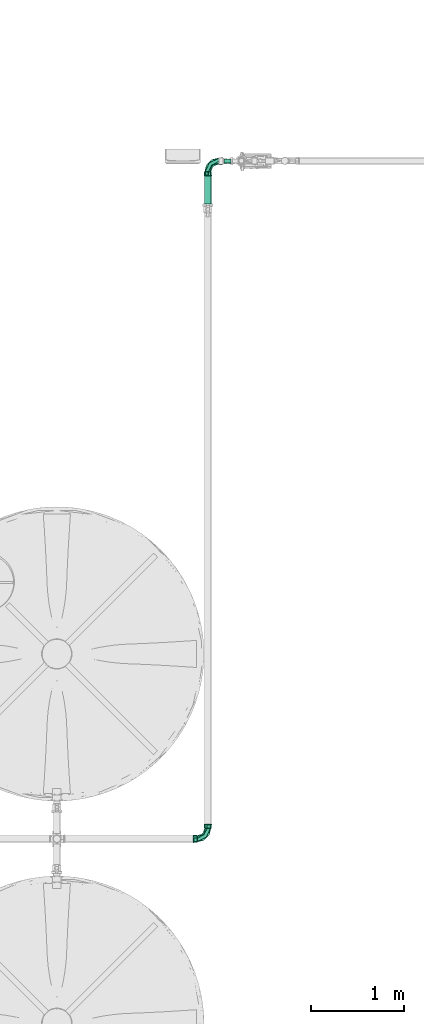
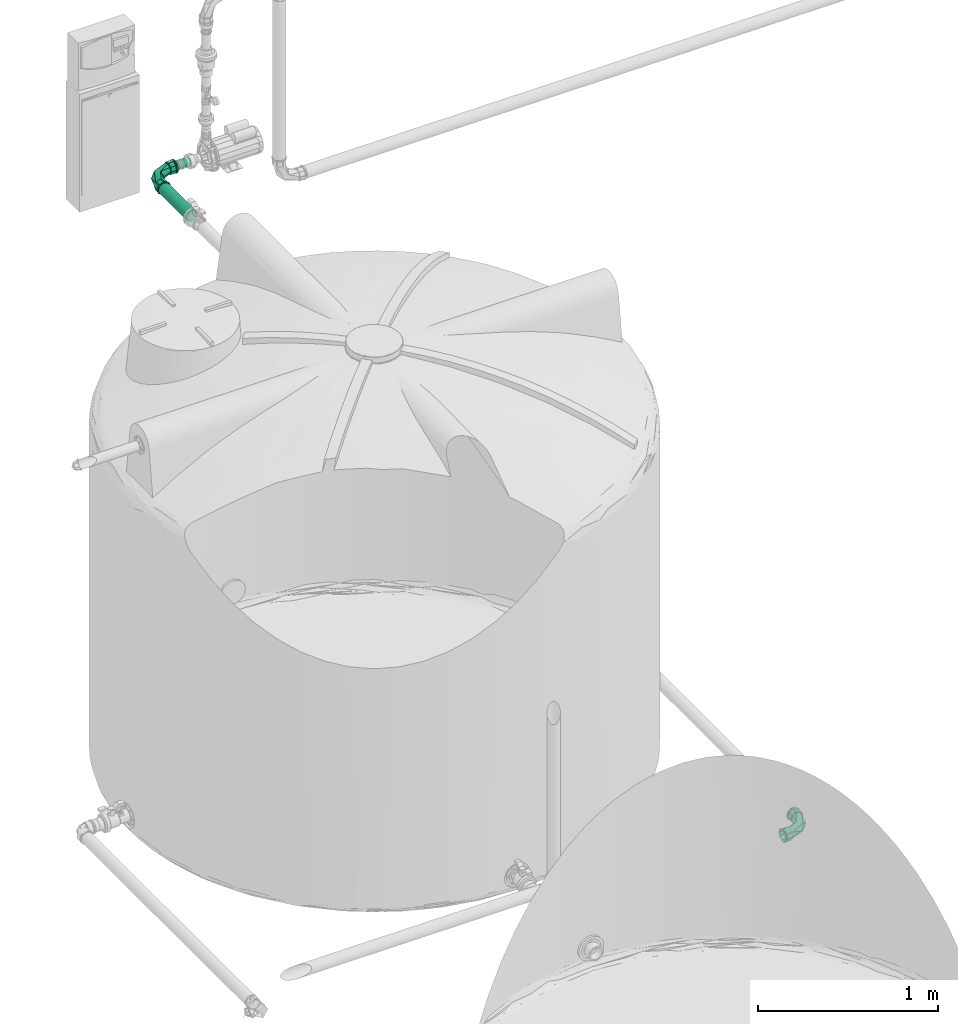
# One storey, part 66 of 166: 2 flow fittings, 2 flow segments.
"""IFC2X3 building model written with IfcOpenShell, lengths in metres."""

import ifcopenshell
import ifcopenshell.guid

model = None  # the IFC model being written
_history = None  # IfcOwnerHistory: only IFC2X3 demands one
_inside = {}  # id of a spatial element -> (the spatial element, [elements in it])
_under = {}  # id of a project, library or spatial element -> (it, [spatial elements below it])
_declared = {}  # id of a project -> (the project, [libraries it declares])
_typed = {}  # id of a type object -> (the type object, [elements of that type])
_made_of = {}  # id of a material, layer set ... -> (it, [elements and type objects made of it])


def new_model(schema):
    """Start an empty IFC model of exactly this schema.

    Asked for "IFC4X3", IfcOpenShell would pick the latest addendum, in which some entities
    have other attributes; the version numbers below select the first issue.
    IFC2X3 requires an IfcOwnerHistory on every rooted entity: one is made here for all.
    """
    global model, _history
    if schema == "IFC4X3":
        model = ifcopenshell.file(schema_version=(4, 3, 0, 0))
    else:
        model = ifcopenshell.file(schema=schema)
    _inside.clear()
    _under.clear()
    _declared.clear()
    _typed.clear()
    _made_of.clear()
    _history = None
    if model.schema == "IFC2X3":
        org = make("IfcOrganization", Name="unknown")
        user = make(
            "IfcPersonAndOrganization",
            ThePerson=make("IfcPerson", FamilyName="unknown"),
            TheOrganization=org,
        )
        app = make(
            "IfcApplication",
            ApplicationDeveloper=org,
            Version="unknown",
            ApplicationFullName="unknown",
            ApplicationIdentifier="unknown",
        )
        _history = make(
            "IfcOwnerHistory",
            OwningUser=user,
            OwningApplication=app,
            ChangeAction="ADDED",
            CreationDate=0,
        )
    return model


def make(cls, **values):
    """One entity of the class cls with the attributes given. An attribute that is None is left unset."""
    return model.create_entity(
        cls, **{name: value for name, value in values.items() if value is not None}
    )


def entity(cls, *values):
    """Any entity or typed value of the class cls, its attributes in the order of the schema. None: left unset."""
    e = model.create_entity(cls)
    for i, value in enumerate(values):
        if value is not None:
            e[i] = value
    return e


def rooted(cls, **values):
    """An entity with a GlobalId (a new one), such as an element, a storey or a relation."""
    return make(cls, GlobalId=ifcopenshell.guid.new(), OwnerHistory=_history, **values)


def si_unit(unit_type, name, prefix=None):
    """IfcSIUnit, for example si_unit("LENGTHUNIT", "METRE", prefix="MILLI")."""
    return make("IfcSIUnit", UnitType=unit_type, Prefix=prefix, Name=name)


def converted_unit(unit_type, name, factor, base, dimensions=None, offset=None):
    """IfcConversionBasedUnit, such as the inch: factor (a typed value) times the base unit."""
    return make(
        "IfcConversionBasedUnit"
        if offset is None
        else "IfcConversionBasedUnitWithOffset",
        ConversionOffset=offset,
        Dimensions=None
        if dimensions is None
        else entity("IfcDimensionalExponents", *dimensions),
        UnitType=unit_type,
        Name=name,
        ConversionFactor=make(
            "IfcMeasureWithUnit", ValueComponent=factor, UnitComponent=base
        ),
    )


def assignment(units):
    """IfcUnitAssignment: the units of a project."""
    return None if units is None else make("IfcUnitAssignment", Units=units)


def point(xyz):
    """IfcCartesianPoint."""
    return None if xyz is None else make("IfcCartesianPoint", Coordinates=xyz)


def direction(xyz):
    """IfcDirection."""
    return None if xyz is None else make("IfcDirection", DirectionRatios=xyz)


def frame(location, z_axis=None, x_axis=None):
    """IfcAxis2Placement3D, a coordinate frame: its origin and axes. An axis left out is left unset."""
    return make(
        "IfcAxis2Placement3D",
        Location=point(location),
        Axis=direction(z_axis),
        RefDirection=direction(x_axis),
    )


def frame_2d(location, x_axis=None):
    """IfcAxis2Placement2D, a coordinate frame in the plane: its origin and x axis."""
    return make(
        "IfcAxis2Placement2D", Location=point(location), RefDirection=direction(x_axis)
    )


def origin():
    """The frame at (0, 0, 0) with its axes left unset."""
    return frame((0.0, 0.0, 0.0))


def origin_2d_with_axis():
    """The frame at (0, 0) in the plane with the x axis (1, 0) written out."""
    return frame_2d((0.0, 0.0), x_axis=(1.0, 0.0))


def place(relative_to, where):
    """IfcLocalPlacement: puts the frame where relative to a parent placement (None: the world)."""
    return make(
        "IfcLocalPlacement", PlacementRelTo=relative_to, RelativePlacement=where
    )


def context(
    kind, dimensions, precision=None, world=None, true_north=None, identifier=None
):
    """IfcGeometricRepresentationContext, for example the 3D "Model" context."""
    return make(
        "IfcGeometricRepresentationContext",
        ContextIdentifier=identifier,
        ContextType=kind,
        CoordinateSpaceDimension=dimensions,
        Precision=precision,
        WorldCoordinateSystem=world,
        TrueNorth=true_north,
    )


def subcontext(parent, identifier, kind, view, scale=None):
    """IfcGeometricRepresentationSubContext, for example "Body" below "Model"."""
    return make(
        "IfcGeometricRepresentationSubContext",
        ContextIdentifier=identifier,
        ContextType=kind,
        ParentContext=parent,
        TargetScale=scale,
        TargetView=view,
    )


def project(units=None, contexts=None):
    """IfcProject with its units and contexts."""
    return rooted(
        "IfcProject",
        Name="project",
        RepresentationContexts=contexts,
        UnitsInContext=assignment(units),
    )


def spatial(cls, under=None, at=None, **own):
    """A site, building, storey or space (cls), placed at a placement, below another one or the project."""
    s = rooted(cls, ObjectPlacement=at, **own)
    if under is not None:
        _under.setdefault(under.id(), (under, []))[1].append(s)
    return s


def profile(cls, at=None, kind="AREA", **sizes):
    """A parametric profile (cls). Its sizes go by their IFC names, for example OverallWidth=200.0."""
    return make(cls, ProfileType=kind, Position=at, **sizes)


def circle(**sizes):
    """IfcCircleProfileDef."""
    return profile("IfcCircleProfileDef", **sizes)


def extrude(swept, where, along, depth):
    """IfcExtrudedAreaSolid: the profile swept, set in the frame where, extruded along a direction by depth."""
    return make(
        "IfcExtrudedAreaSolid",
        SweptArea=swept,
        Position=where,
        ExtrudedDirection=direction(along),
        Depth=depth,
    )


def faces_of(points, faces, orient=None, outer=None):
    """IfcFace entities. A face is a list of loops; a loop is a list of indices into points, from 0.

    orient and outer hold one flag for each loop. By default every Orientation is true, the
    first loop of a face is its IfcFaceOuterBound and the others are IfcFaceBound.
    """
    made = []
    for i, loops in enumerate(faces):
        bounds = []
        for j, loop in enumerate(loops):
            is_outer = j == 0 if outer is None else outer[i][j]
            bounds.append(
                make(
                    "IfcFaceOuterBound" if is_outer else "IfcFaceBound",
                    Bound=make("IfcPolyLoop", Polygon=[points[k] for k in loop]),
                    Orientation=True if orient is None else orient[i][j],
                )
            )
        made.append(make("IfcFace", Bounds=bounds))
    return made


def faceted_brep(points, faces, orient=None, outer=None, voids=None):
    """IfcFacetedBrep: a solid bounded by flat faces; with voids (closed shells), ...WithVoids."""
    shared = [point(p) for p in points]
    hull = make("IfcClosedShell", CfsFaces=faces_of(shared, faces, orient, outer))
    if voids is None:
        return make("IfcFacetedBrep", Outer=hull)
    return make(
        "IfcFacetedBrepWithVoids",
        Outer=hull,
        Voids=[
            make(cls, CfsFaces=faces_of(shared, fs, o, b)) for cls, fs, o, b in voids
        ],
    )


def shape(context_of_items, identifier, shape_type, items):
    """IfcShapeRepresentation: the items that make up one representation, for example the "Body"."""
    return make(
        "IfcShapeRepresentation",
        ContextOfItems=context_of_items,
        RepresentationIdentifier=identifier,
        RepresentationType=shape_type,
        Items=items,
    )


def source(mapping_origin, context_of_items, identifier, shape_type, items):
    """IfcRepresentationMap: a shape defined once, which mapped items show again and again."""
    return make(
        "IfcRepresentationMap",
        MappingOrigin=mapping_origin,
        MappedRepresentation=shape(context_of_items, identifier, shape_type, items),
    )


def transform(
    local_origin,
    x_axis=None,
    y_axis=None,
    z_axis=None,
    scale=None,
    scale2=None,
    scale3=None,
    uniform=True,
):
    """IfcCartesianTransformationOperator3D, or its non-uniform kind. x_axis, y_axis, z_axis: its Axis1, 2, 3."""
    if uniform:
        return make(
            "IfcCartesianTransformationOperator3D",
            Axis1=direction(x_axis),
            Axis2=direction(y_axis),
            LocalOrigin=point(local_origin),
            Scale=scale,
            Axis3=direction(z_axis),
        )
    return make(
        "IfcCartesianTransformationOperator3DnonUniform",
        Axis1=direction(x_axis),
        Axis2=direction(y_axis),
        LocalOrigin=point(local_origin),
        Scale=scale,
        Axis3=direction(z_axis),
        Scale2=scale2,
        Scale3=scale3,
    )


def mapped(mapping_source, mapping_target):
    """IfcMappedItem: shows the shape of a source again, moved by a transform."""
    return make(
        "IfcMappedItem", MappingSource=mapping_source, MappingTarget=mapping_target
    )


def material(Name=None, Category=None):
    """IfcMaterial."""
    return make("IfcMaterial", Name=Name, Category=Category)


def made_of(thing, what):
    """Note that an element or type object is made of a material, layer set ...; save() writes the relation."""
    if what is not None:
        _made_of.setdefault(what.id(), (what, []))[1].append(thing)
    return thing


def type_object(cls, material=None, **own):
    """A type object (cls), such as IfcWallType, which elements share."""
    return made_of(rooted(cls, **own), material)


def type_shapes(of_type, sources):
    """Give a type object the sources (RepresentationMaps) that its elements show as mapped items."""
    of_type.RepresentationMaps = sources


def element(
    cls,
    number,
    at=None,
    inside=None,
    cuts=None,
    type_object=None,
    material=None,
    context=None,
    identifier="Body",
    shape_type=None,
    held_by="IfcProductDefinitionShape",
    body=None,
    shapes=None,
    **own,
):
    """One element of the class cls, such as IfcWall. Its Tag is "e" and its number.

    at: its placement. inside: the storey or other place that contains it. cuts: it is an
    opening in that element (IfcRelVoidsElement). A single representation is given by context,
    identifier, shape_type and body (its items); several are given by shapes. held_by: the class
    of the entity that holds the representations. save() writes the other relations.
    """
    e = rooted(cls, Tag="e%d" % number, ObjectPlacement=at, **own)
    if body is not None:
        shapes = [shape(context, identifier, shape_type, body)]
    if shapes is not None:
        e.Representation = make(held_by, Representations=shapes)
    if inside is not None:
        _inside.setdefault(inside.id(), (inside, []))[1].append(e)
    if cuts is not None:
        rooted(
            "IfcRelVoidsElement", RelatingBuildingElement=cuts, RelatedOpeningElement=e
        )
    if type_object is not None:
        _typed.setdefault(type_object.id(), (type_object, []))[1].append(e)
    return made_of(e, material)


def aggregate(whole, parts):
    """IfcRelAggregates: a whole, such as a stair, and the parts it consists of."""
    return rooted("IfcRelAggregates", RelatingObject=whole, RelatedObjects=parts)


def save(model, path):
    """Write the relations noted so far, then the file.

    IfcRelAggregates (storeys below a building ...), IfcRelContainedInSpatialStructure (elements
    in a storey), IfcRelDefinesByType, IfcRelAssociatesMaterial and IfcRelDeclares: one each for
    every whole, place, type object, material and project.
    """
    for whole, parts in _under.values():
        aggregate(whole, parts)
    for where, things in _inside.values():
        rooted(
            "IfcRelContainedInSpatialStructure",
            RelatedElements=things,
            RelatingStructure=where,
        )
    for kind, things in _typed.values():
        rooted("IfcRelDefinesByType", RelatedObjects=things, RelatingType=kind)
    for what, things in _made_of.values():
        rooted("IfcRelAssociatesMaterial", RelatedObjects=things, RelatingMaterial=what)
    for by, libraries in _declared.values():
        rooted("IfcRelDeclares", RelatingContext=by, RelatedDefinitions=libraries)
    model.write(path)


model = new_model("IFC2X3")

# Units and contexts
model_context = context("Model", 3, precision=1e-05, world=origin(), true_north=direction((6.123233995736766e-17, 1.0)))
body_context = subcontext(model_context, "Body", "Model", "MODEL_VIEW")
ifc_project = project(units=[si_unit("LENGTHUNIT", "METRE"), converted_unit("PLANEANGLEUNIT", "DEGREE", entity("IfcPlaneAngleMeasure", 0.017453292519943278), si_unit("PLANEANGLEUNIT", "RADIAN"), dimensions=[0, 0, 0, 0, 0, 0, 0]), si_unit("AREAUNIT", "SQUARE_METRE")], contexts=[model_context])

# Site, building, storey
site_placement = place(None, origin())
site = spatial("IfcSite", under=ifc_project, at=site_placement, Name="Default", CompositionType="ELEMENT")
building_placement = place(site_placement, origin())
building = spatial("IfcBuilding", under=site, at=building_placement, Name="CASA DE ACOLHIDA PARA IDOSOS", CompositionType="ELEMENT")
storey_placement = place(building_placement, frame((0.0, 0.0, -1.7499999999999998)))
storey = spatial("IfcBuildingStorey", under=building, at=storey_placement, Name="IMPLANTAÇÃO DRENAGEM", CompositionType="ELEMENT", Elevation=-1.7499999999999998)

# Flow segments
pipe_segment_type = type_object("IfcPipeSegmentType", Name="Tipos de tubos:AF_Tubo Marrom Soldável", PredefinedType="NOTDEFINED")
flow_segment_1_placement = place(storey_placement, origin())
element("IfcFlowSegment", 1, at=flow_segment_1_placement, inside=storey, type_object=pipe_segment_type, Name="Tipos de tubos:AF_Tubo Marrom Soldável", ObjectType="Tipos de tubos:AF_Tubo Marrom Soldável", context=body_context, shape_type="SweptSolid", body=[
    extrude(circle(Radius=0.037500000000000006, at=origin_2d_with_axis()), frame((-61.132905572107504, 6.58491222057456, 0.13340000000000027), z_axis=(0.0, 1.0, 0.0), x_axis=(1.0, 0.0, 0.0)), (0.0, 0.0, 1.0), 0.34874504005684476),
])
flow_segment_2_placement = place(storey_placement, origin())
element("IfcFlowSegment", 2, at=flow_segment_2_placement, inside=storey, type_object=pipe_segment_type, Name="Tipos de tubos:AF_Tubo Marrom Soldável", ObjectType="Tipos de tubos:AF_Tubo Marrom Soldável", context=body_context, shape_type="SweptSolid", body=[
    extrude(circle(Radius=0.025, at=frame_2d((0.0, -2.707167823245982e-16), x_axis=(1.0, 0.0))), frame((-60.957495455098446, 7.048917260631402, 0.1333999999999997), z_axis=(1.0, 0.0, 0.0), x_axis=(0.0, -1.0, 0.0)), (0.0, 0.0, 1.0), 0.07434518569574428),
])

# Flow fittings
ifc_material = material(Name="PVC Marrom")
pipe_fitting_type = type_object("IfcPipeFittingType", Name="AF_Soldavel_Curva 45_90:Standard", PredefinedType="NOTDEFINED", material=ifc_material)
shared_shape = source(origin(), body_context, "Body", "Brep", [
    faceted_brep([(-0.1595599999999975, -0.01112921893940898, -0.041534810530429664), (-0.1595599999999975, -0.009705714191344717, -0.036222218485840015), (-0.1595599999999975, 0.00970571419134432, -0.03622221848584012), (-0.1595599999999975, -0.03723909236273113, -0.02149999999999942), (-0.1595599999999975, 0.011129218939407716, -0.041534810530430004), (-0.1595599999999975, -0.03247595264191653, -0.01874999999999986), (-0.1595599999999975, -0.037500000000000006, 0.0), (-0.1595599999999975, -0.043000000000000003, 0.0), (-0.1595599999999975, -0.032475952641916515, 0.018749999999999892), (-0.1595599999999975, -0.03723909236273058, 0.021499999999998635), (-0.1595599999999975, -0.009705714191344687, 0.03622221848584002), (-0.1595599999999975, -0.011129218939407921, 0.04153481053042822), (-0.1595599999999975, 0.00970571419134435, 0.03622221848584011), (-0.1595599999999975, 0.011129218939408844, 0.041534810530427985), (-0.1595599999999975, 0.03247595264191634, 0.018750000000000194), (-0.1595599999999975, 0.03723909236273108, 0.021499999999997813), (-0.1595599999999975, 0.043000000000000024, 0.0), (-0.1595599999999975, 0.037500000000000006, 0.0), (-0.1595599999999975, 0.03723909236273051, -0.021500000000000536), (-0.1595599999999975, 0.03247595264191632, -0.01875000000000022), (-0.1512599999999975, 0.043000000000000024, 0.0), (-0.1512599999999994, 0.03293946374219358, 0.027640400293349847), (-0.15126000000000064, 0.007465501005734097, 0.04234697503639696), (-0.1512599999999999, -0.032941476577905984, 0.027638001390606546), (-0.1512599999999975, -0.043000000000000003, 0.0), (-0.1512599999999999, -0.012737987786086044, 0.03499248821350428), (-0.15125999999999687, -0.03294147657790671, -0.027638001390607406), (-0.15125999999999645, -0.007468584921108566, -0.04234643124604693), (-0.1512599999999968, 0.03293946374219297, -0.027640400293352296), (-0.15125999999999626, 0.012735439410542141, -0.03499341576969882), (-0.14726000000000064, 0.006943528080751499, 0.03939273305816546), (-0.14725999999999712, -0.04, 0.0), (-0.14725999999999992, -0.0306445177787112, 0.02570823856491), (-0.14726000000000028, -0.01185049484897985, 0.03255048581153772), (-0.14725999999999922, 0.03064099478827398, 0.025712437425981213), (-0.14725999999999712, 0.04000000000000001, 0.0), (-0.14725999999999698, 0.030640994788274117, -0.025712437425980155), (-0.14725999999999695, 0.011846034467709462, -0.03255210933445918), (-0.14725999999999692, -0.030644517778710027, -0.02570823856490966), (-0.1472599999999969, -0.006948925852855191, -0.039391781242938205), (-0.11525999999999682, 0.04000000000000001, 0.0), (-0.1152599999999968, 0.03064034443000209, 0.025713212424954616), (-0.11525999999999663, 0.006941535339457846, 0.039393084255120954), (-0.1152599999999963, -0.030646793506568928, 0.025705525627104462), (-0.11525999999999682, -0.039999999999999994, 0.0), (-0.11525999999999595, -0.03064679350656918, -0.025705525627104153), (-0.11525999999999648, -0.006951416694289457, -0.03939134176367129), (-0.11525999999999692, 0.030640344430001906, -0.02571321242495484), (-0.11275999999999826, 0.02681594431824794, -0.022492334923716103), (-0.11275999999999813, -0.00607384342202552, -0.034468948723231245), (-0.1127599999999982, 0.03500000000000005, 0.0), (-0.1127599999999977, -0.026810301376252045, -0.02249906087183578), (-0.11275999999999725, -0.03500000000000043, 0.0), (-0.11276000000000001, -0.026810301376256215, 0.022499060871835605), (-0.11275999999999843, 0.0060824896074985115, 0.034467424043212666), (-0.11275999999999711, 0.026815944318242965, 0.022492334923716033), (-0.038879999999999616, -0.015203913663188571, 0.0), (-0.017106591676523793, 0.017106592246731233, 0.026797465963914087), (-0.006082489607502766, 0.11275999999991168, 0.0344674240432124), (-0.042993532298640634, 0.04299353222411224, 0.03203626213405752), (-0.05777537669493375, 0.05777537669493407, 0.0), (-0.0268159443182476, 0.1127599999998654, 0.02249233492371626), (0.015203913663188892, 0.03887999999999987, 0.0), (0.035000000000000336, 0.11275999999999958, 0.0), (0.026810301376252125, 0.11275999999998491, 0.022499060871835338), (-0.034999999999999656, 0.1127599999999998, 0.0), (-0.037770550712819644, 0.03777054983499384, -0.03435099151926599), (-0.05270496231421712, 0.052704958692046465, -0.021225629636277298), (-0.0268159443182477, 0.11275999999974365, -0.022492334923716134), (-0.01710659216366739, 0.01710659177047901, -0.02679746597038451), (0.0060738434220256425, 0.11275999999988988, -0.03446894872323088), (0.02681030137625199, 0.11275999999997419, -0.022499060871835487), (0.03064034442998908, 0.115259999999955, -0.025713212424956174), (0.03999999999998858, 0.11525999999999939, 0.0), (0.006941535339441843, 0.11525999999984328, -0.03939308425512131), (-0.04000000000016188, 0.11525999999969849, 0.0), (-0.030646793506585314, 0.11525999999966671, -0.02570552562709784), (-0.03064679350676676, 0.1152600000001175, 0.02570552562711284), (-0.006951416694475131, 0.11526000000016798, 0.039391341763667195), (0.030640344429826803, 0.1152600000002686, 0.025713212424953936), (0.03999999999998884, 0.14725999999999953, 0.0), (0.030640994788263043, 0.14726000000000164, 0.02571243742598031), (0.011846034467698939, 0.14726000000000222, 0.03255210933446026), (-0.006948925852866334, 0.14726000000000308, 0.039391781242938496), (-0.03064451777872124, 0.1472600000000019, 0.02570823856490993), (-0.04000000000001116, 0.14725999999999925, 0.0), (-0.030644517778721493, 0.14726000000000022, -0.025708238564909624), (-0.011850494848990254, 0.14726000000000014, -0.03255048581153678), (0.006943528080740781, 0.14725999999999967, -0.03939273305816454), (0.030640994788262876, 0.14725999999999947, -0.025712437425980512), (-0.03293946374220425, 0.15126000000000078, 0.02764040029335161), (-0.043000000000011, 0.1512599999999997, 0.0), (-0.007465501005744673, 0.15126000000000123, 0.042346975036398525), (0.032941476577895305, 0.15126000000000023, 0.027638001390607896), (0.012737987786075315, 0.15126000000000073, 0.03499248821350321), (0.04299999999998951, 0.1512599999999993, 0.0), (0.03294147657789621, 0.15126000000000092, -0.027638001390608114), (0.0074685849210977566, 0.1512600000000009, -0.042346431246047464), (-0.03293946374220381, 0.15126000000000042, -0.0276404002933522), (-0.012735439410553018, 0.15126000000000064, -0.03499341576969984), (-0.011129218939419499, 0.1595599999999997, -0.04153481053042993), (-0.009705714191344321, 0.1595599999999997, -0.03622221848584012), (0.009705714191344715, 0.1595599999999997, -0.036222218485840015), (-0.03723909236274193, 0.1595599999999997, -0.02149999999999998), (0.011129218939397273, 0.1595599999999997, -0.04153481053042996), (-0.03247595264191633, 0.1595599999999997, -0.01875000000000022), (-0.037500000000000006, 0.1595599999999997, 0.0), (-0.04300000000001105, 0.1595599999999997, 0.0), (-0.03247595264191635, 0.1595599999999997, 0.018750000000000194), (-0.03723909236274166, 0.1595599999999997, 0.02150000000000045), (-0.009705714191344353, 0.1595599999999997, 0.03622221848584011), (-0.011129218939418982, 0.1595599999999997, 0.041534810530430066), (0.009705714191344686, 0.1595599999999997, 0.03622221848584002), (0.01112921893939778, 0.1595599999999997, 0.04153481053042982), (0.03247595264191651, 0.1595599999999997, 0.018749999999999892), (0.03723909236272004, 0.1595599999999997, 0.02149999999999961), (0.04299999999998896, 0.1595599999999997, 0.0), (0.0375, 0.1595599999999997, 0.0), (0.03723909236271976, 0.1595599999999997, -0.0215000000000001), (0.03247595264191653, 0.1595599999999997, -0.01874999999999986), (-0.11525999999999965, 0.009705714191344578, -0.036222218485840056), (-0.11525999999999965, -0.009705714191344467, -0.036222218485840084), (-0.11525999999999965, -0.032475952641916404, -0.018750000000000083), (-0.11525999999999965, -0.037500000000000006, 0.0), (-0.11525999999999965, -0.03247595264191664, 0.018749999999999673), (-0.11525999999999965, -0.009705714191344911, 0.03622221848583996), (-0.11525999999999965, 0.009705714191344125, 0.036222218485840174), (-0.11525999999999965, 0.032475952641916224, 0.01875000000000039), (-0.11525999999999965, 0.037500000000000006, 0.0), (-0.11525999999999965, 0.03247595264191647, -0.018749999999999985), (0.009705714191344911, 0.11526000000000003, 0.03622221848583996), (-0.009705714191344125, 0.11526000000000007, 0.036222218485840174), (-0.009705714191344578, 0.11526000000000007, -0.036222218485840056), (0.009705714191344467, 0.11526000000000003, -0.036222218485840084), (-0.03247595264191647, 0.1152600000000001, -0.018749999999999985), (-0.037500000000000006, 0.11526000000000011, 0.0), (-0.032475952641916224, 0.1152600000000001, 0.01875000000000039), (0.03247595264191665, 0.11526, 0.01874999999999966), (0.037500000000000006, 0.11525999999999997, 0.0), (0.032475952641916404, 0.11526, -0.018750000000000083)], [[[0, 1, 2]], [[1, 0, 3]], [[2, 4, 0]], [[3, 5, 1]], [[3, 6, 5]], [[6, 3, 7]], [[8, 6, 7]], [[8, 7, 9]], [[9, 10, 8]], [[9, 11, 10]], [[10, 11, 12]], [[13, 12, 11]], [[13, 14, 12]], [[14, 13, 15]], [[16, 14, 15]], [[17, 14, 16]], [[18, 17, 16]], [[18, 19, 17]], [[19, 18, 4]], [[4, 2, 19]], [[16, 15, 20]], [[15, 21, 20]], [[21, 15, 13]], [[21, 13, 22]], [[23, 11, 9]], [[24, 9, 7]], [[11, 23, 25, 22]], [[23, 9, 24]], [[11, 22, 13]], [[7, 3, 24]], [[3, 26, 24]], [[26, 3, 0]], [[26, 0, 27]], [[28, 4, 18]], [[20, 18, 16]], [[4, 28, 29, 27]], [[28, 18, 20]], [[4, 27, 0]], [[25, 30, 22]], [[31, 32, 24]], [[24, 32, 23]], [[23, 33, 25]], [[34, 35, 21]], [[23, 32, 33]], [[21, 22, 34]], [[20, 21, 35]], [[30, 25, 33]], [[34, 22, 30]], [[35, 36, 28]], [[28, 20, 35]], [[36, 29, 28]], [[36, 37, 29]], [[37, 27, 29]], [[38, 31, 24]], [[38, 26, 39]], [[26, 38, 24]], [[27, 37, 39]], [[39, 26, 27]], [[35, 34, 40]], [[34, 41, 40]], [[41, 34, 30]], [[41, 30, 42]], [[32, 31, 43]], [[32, 43, 42]], [[43, 31, 44]], [[42, 30, 33, 32]], [[31, 38, 45]], [[31, 45, 44]], [[45, 38, 46]], [[38, 39, 46]], [[47, 39, 37, 36]], [[36, 40, 47]], [[40, 36, 35]], [[39, 47, 46]], [[48, 49, 47]], [[50, 48, 40]], [[40, 48, 47]], [[49, 46, 47]], [[51, 52, 45]], [[45, 46, 51]], [[44, 45, 52]], [[51, 46, 49]], [[52, 53, 43]], [[43, 44, 52]], [[42, 43, 53]], [[53, 54, 42]], [[55, 50, 40]], [[55, 41, 54]], [[41, 55, 40]], [[54, 41, 42]], [[52, 56, 53]], [[53, 57, 54]], [[57, 58, 59]], [[59, 55, 54]], [[50, 55, 60]], [[58, 61, 59]], [[57, 56, 62]], [[57, 59, 54]], [[62, 63, 64]], [[57, 53, 56]], [[64, 58, 57]], [[65, 60, 61]], [[60, 55, 59]], [[60, 59, 61]], [[62, 64, 57]], [[66, 67, 68]], [[69, 66, 70]], [[62, 69, 71]], [[52, 51, 56]], [[56, 51, 69]], [[69, 49, 66]], [[50, 60, 67]], [[65, 68, 67]], [[66, 48, 67]], [[49, 48, 66]], [[70, 66, 68]], [[62, 56, 69]], [[70, 71, 69]], [[71, 63, 62]], [[51, 49, 69]], [[60, 65, 67]], [[50, 67, 48]], [[63, 71, 72, 73]], [[74, 72, 71, 70]], [[68, 65, 75, 76]], [[68, 76, 74, 70]], [[65, 61, 77, 75]], [[78, 77, 61, 58]], [[64, 63, 73, 79]], [[64, 79, 78, 58]], [[80, 81, 73]], [[81, 79, 73]], [[79, 81, 82, 83]], [[79, 83, 78]], [[84, 85, 77]], [[84, 77, 78]], [[77, 85, 75]], [[84, 78, 83]], [[85, 86, 76]], [[85, 76, 75]], [[76, 86, 74]], [[74, 86, 87, 88]], [[88, 89, 72]], [[89, 73, 72]], [[73, 89, 80]], [[88, 72, 74]], [[84, 83, 90]], [[85, 84, 91]], [[91, 84, 90]], [[83, 92, 90]], [[81, 80, 93]], [[81, 93, 94]], [[82, 92, 83]], [[95, 93, 80]], [[92, 82, 94]], [[82, 81, 94]], [[80, 89, 96]], [[96, 95, 80]], [[97, 96, 89]], [[98, 99, 87]], [[89, 88, 97]], [[86, 85, 91]], [[98, 87, 86]], [[98, 86, 91]], [[88, 99, 97]], [[99, 88, 87]], [[100, 101, 102]], [[101, 100, 103]], [[102, 104, 100]], [[103, 105, 101]], [[103, 106, 105]], [[106, 103, 107]], [[108, 106, 107]], [[108, 107, 109]], [[109, 110, 108]], [[109, 111, 110]], [[110, 111, 112]], [[113, 112, 111]], [[113, 114, 112]], [[114, 113, 115]], [[116, 114, 115]], [[117, 114, 116]], [[118, 117, 116]], [[118, 119, 117]], [[119, 118, 104]], [[104, 102, 119]], [[116, 115, 95]], [[115, 93, 95]], [[93, 115, 113]], [[113, 92, 94, 93]], [[90, 111, 109]], [[91, 109, 107]], [[111, 90, 92]], [[90, 109, 91]], [[111, 92, 113]], [[107, 103, 91]], [[103, 98, 91]], [[98, 103, 100]], [[100, 97, 99, 98]], [[96, 104, 118]], [[95, 118, 116]], [[104, 96, 97]], [[96, 118, 95]], [[104, 97, 100]], [[120, 121, 122, 123, 124, 125, 126, 127, 128, 129]], [[124, 123, 6, 8]], [[125, 124, 8, 10]], [[10, 12, 126, 125]], [[130, 131, 110, 112]], [[127, 126, 12, 14]], [[128, 127, 14, 17]], [[129, 128, 17, 19]], [[120, 129, 19, 2]], [[2, 1, 121, 120]], [[132, 133, 102, 101]], [[122, 121, 1, 5]], [[123, 122, 5, 6]], [[132, 134, 135, 136, 131, 130, 137, 138, 139, 133]], [[114, 117, 138, 137]], [[112, 114, 137, 130]], [[108, 110, 131, 136]], [[106, 108, 136, 135]], [[105, 106, 135, 134]], [[101, 105, 134, 132]], [[119, 102, 133, 139]], [[117, 119, 139, 138]]]),
])
type_shapes(pipe_fitting_type, [shared_shape])
flow_fitting_1_placement = place(storey_placement, frame((-61.132905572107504, -0.25137816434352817, 0.1334)))
element("IfcFlowFitting", 3, at=flow_fitting_1_placement, inside=storey, type_object=pipe_fitting_type, material=ifc_material, Name="AF_Soldavel_Curva 45_90:Standard", ObjectType="AF_Soldavel_Curva 45_90:Standard", context=body_context, shape_type="MappedRepresentation", body=[
    mapped(shared_shape, transform((0.0, 0.0, 0.0), scale=1.0)),
])
flow_fitting_2_placement = place(storey_placement, frame((-61.132905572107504, 7.048917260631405, 0.1334), z_axis=(0.0, 0.0, 1.0), x_axis=(-1.0, 0.0, 0.0)))
element("IfcFlowFitting", 4, at=flow_fitting_2_placement, inside=storey, type_object=pipe_fitting_type, material=ifc_material, Name="AF_Soldavel_Curva 45_90:Standard", ObjectType="AF_Soldavel_Curva 45_90:Standard", context=body_context, shape_type="MappedRepresentation", body=[
    mapped(shared_shape, transform((0.0, 0.0, 0.0), scale=1.0)),
])

save(model, "model.ifc")
